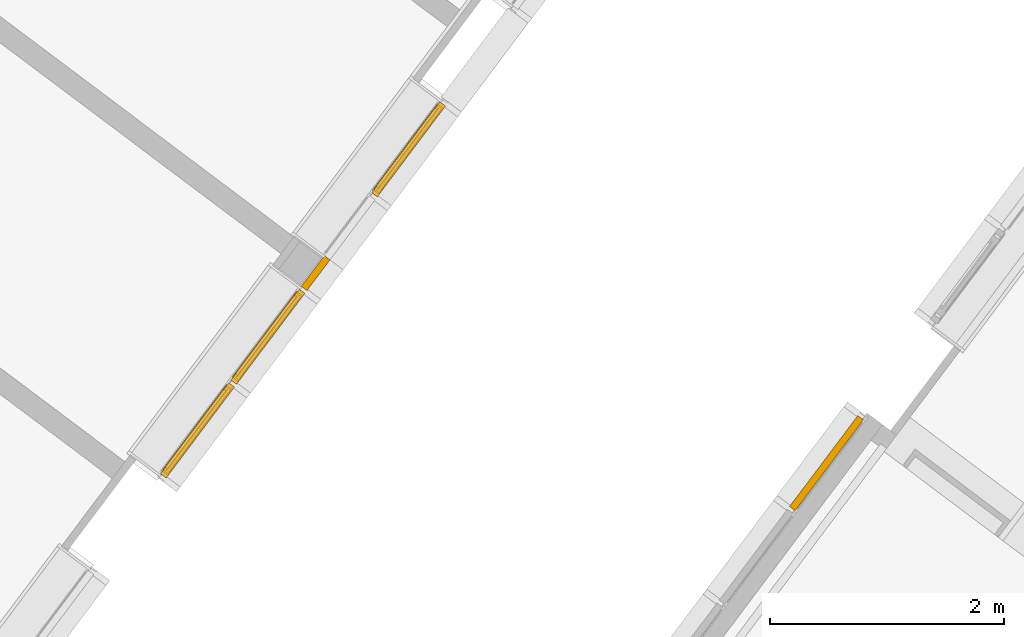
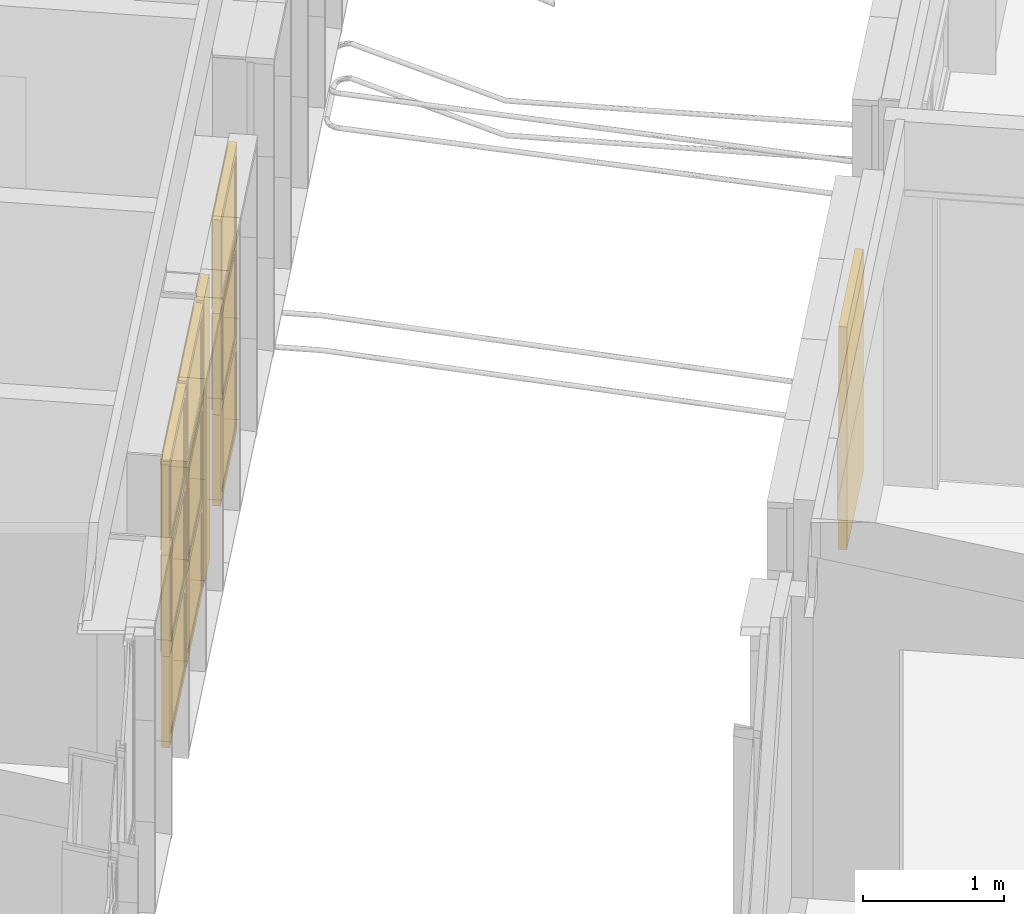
# One storey, part 160 of 243: 9 windows, 2 doors, 2 elements without a shape of their own.
"""IFC2X3 building model written with IfcOpenShell, lengths in metres."""

from ifc_helpers import new_model, entity, si_unit, converted_unit, derived_unit, direction, frame, origin, origin_2d_with_axis, place, context, subcontext, project, spatial, rectangle, extrude, faceted_brep, source, transform, mapped, material, material_list, type_object, type_shapes, element, aggregate, save


model = new_model("IFC2X3")

# Units and contexts
model_context = context("Model", 3, precision=1e-05, world=origin(), true_north=direction((6.123031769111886e-17, 1.0)))
body_context = subcontext(model_context, "Body", "Model", "MODEL_VIEW")
ifc_project = project(units=[si_unit("LENGTHUNIT", "METRE"), si_unit("AREAUNIT", "SQUARE_METRE"), si_unit("VOLUMEUNIT", "CUBIC_METRE"), converted_unit("PLANEANGLEUNIT", "DEGREE", entity("IfcRatioMeasure", 0.017453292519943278), si_unit("PLANEANGLEUNIT", "RADIAN"), dimensions=[0, 0, 0, 0, 0, 0, 0]), si_unit("MASSUNIT", "GRAM", prefix="KILO"), derived_unit("MASSDENSITYUNIT", [(si_unit("MASSUNIT", "GRAM", prefix="KILO"), 1), (si_unit("LENGTHUNIT", "METRE"), -3)]), derived_unit("IONCONCENTRATIONUNIT", [(si_unit("MASSUNIT", "GRAM", prefix="KILO"), 1), (si_unit("LENGTHUNIT", "METRE"), -3)]), derived_unit("MOMENTOFINERTIAUNIT", [(si_unit("LENGTHUNIT", "METRE"), 4)]), si_unit("TIMEUNIT", "SECOND"), si_unit("FREQUENCYUNIT", "HERTZ"), si_unit("THERMODYNAMICTEMPERATUREUNIT", "DEGREE_CELSIUS"), derived_unit("THERMALTRANSMITTANCEUNIT", [(si_unit("MASSUNIT", "GRAM", prefix="KILO"), 1), (si_unit("THERMODYNAMICTEMPERATUREUNIT", "KELVIN"), -1), (si_unit("TIMEUNIT", "SECOND"), -3)]), derived_unit("THERMALCONDUCTANCEUNIT", [(si_unit("MASSUNIT", "GRAM", prefix="KILO"), 1), (si_unit("THERMODYNAMICTEMPERATUREUNIT", "KELVIN"), -1), (si_unit("TIMEUNIT", "SECOND"), -3), (si_unit("LENGTHUNIT", "METRE"), 1)]), derived_unit("VOLUMETRICFLOWRATEUNIT", [(si_unit("LENGTHUNIT", "METRE"), 3), (si_unit("TIMEUNIT", "SECOND"), -1)]), derived_unit("MASSFLOWRATEUNIT", [(si_unit("MASSUNIT", "GRAM", prefix="KILO"), 1), (si_unit("TIMEUNIT", "SECOND"), -1)]), derived_unit("ROTATIONALFREQUENCYUNIT", [(si_unit("TIMEUNIT", "SECOND"), -1)]), si_unit("ELECTRICCURRENTUNIT", "AMPERE"), si_unit("ELECTRICVOLTAGEUNIT", "VOLT"), si_unit("POWERUNIT", "WATT"), si_unit("FORCEUNIT", "NEWTON", prefix="KILO"), si_unit("ILLUMINANCEUNIT", "LUX"), si_unit("LUMINOUSFLUXUNIT", "LUMEN"), si_unit("LUMINOUSINTENSITYUNIT", "CANDELA"), derived_unit("USERDEFINED", [(si_unit("MASSUNIT", "GRAM", prefix="KILO"), -1), (si_unit("LENGTHUNIT", "METRE"), -2), (si_unit("TIMEUNIT", "SECOND"), 3), (si_unit("LUMINOUSFLUXUNIT", "LUMEN"), 1)]), derived_unit("USERDEFINED", [(si_unit("MASSUNIT", "GRAM", prefix="KILO"), 1), (si_unit("TIMEUNIT", "SECOND"), -3), (si_unit("LENGTHUNIT", "METRE"), 3), (si_unit("ELECTRICCURRENTUNIT", "AMPERE"), -2)]), derived_unit("SOUNDPOWERUNIT", [(si_unit("MASSUNIT", "GRAM", prefix="KILO"), 1), (si_unit("TIMEUNIT", "SECOND"), -3), (si_unit("LENGTHUNIT", "METRE"), 2)]), derived_unit("SOUNDPRESSUREUNIT", [(si_unit("MASSUNIT", "GRAM", prefix="KILO"), 1), (si_unit("LENGTHUNIT", "METRE"), -1), (si_unit("TIMEUNIT", "SECOND"), -2)]), derived_unit("LINEARVELOCITYUNIT", [(si_unit("LENGTHUNIT", "METRE"), 1), (si_unit("TIMEUNIT", "SECOND"), -1)]), si_unit("PRESSUREUNIT", "PASCAL"), derived_unit("USERDEFINED", [(si_unit("MASSUNIT", "GRAM", prefix="KILO"), 1), (si_unit("LENGTHUNIT", "METRE"), -2), (si_unit("TIMEUNIT", "SECOND"), -2)]), derived_unit("LINEARFORCEUNIT", [(si_unit("MASSUNIT", "GRAM", prefix="KILO"), 1), (si_unit("TIMEUNIT", "SECOND"), -2)]), derived_unit("PLANARFORCEUNIT", [(si_unit("MASSUNIT", "GRAM", prefix="KILO"), 1), (si_unit("LENGTHUNIT", "METRE"), -1), (si_unit("TIMEUNIT", "SECOND"), -2)]), derived_unit("SPECIFICHEATCAPACITYUNIT", [(si_unit("THERMODYNAMICTEMPERATUREUNIT", "KELVIN"), -1), (si_unit("LENGTHUNIT", "METRE"), 2), (si_unit("TIMEUNIT", "SECOND"), -2)]), derived_unit("HEATINGVALUEUNIT", [(si_unit("LENGTHUNIT", "METRE"), 2), (si_unit("TIMEUNIT", "SECOND"), -2)]), derived_unit("VAPORPERMEABILITYUNIT", [(si_unit("LENGTHUNIT", "METRE"), -1), (si_unit("TIMEUNIT", "SECOND"), 1)]), derived_unit("DYNAMICVISCOSITYUNIT", [(si_unit("MASSUNIT", "GRAM", prefix="KILO"), 1), (si_unit("TIMEUNIT", "SECOND"), -1), (si_unit("LENGTHUNIT", "METRE"), -1)]), derived_unit("THERMALEXPANSIONCOEFFICIENTUNIT", [(si_unit("THERMODYNAMICTEMPERATUREUNIT", "KELVIN"), -1)]), derived_unit("MODULUSOFELASTICITYUNIT", [(si_unit("MASSUNIT", "GRAM", prefix="KILO"), 1), (si_unit("LENGTHUNIT", "METRE"), -1), (si_unit("TIMEUNIT", "SECOND"), -2)]), derived_unit("ISOTHERMALMOISTURECAPACITYUNIT", [(si_unit("LENGTHUNIT", "METRE"), 3), (si_unit("MASSUNIT", "GRAM", prefix="KILO"), -1)]), derived_unit("MOISTUREDIFFUSIVITYUNIT", [(si_unit("TIMEUNIT", "SECOND"), -1), (si_unit("LENGTHUNIT", "METRE"), 2)])], contexts=[model_context])

# Site, building, storey
site_placement = place(None, frame((0.0, 0.0, 235.0), z_axis=(0.0, 0.0, 1.0), x_axis=(-0.7996477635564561, 0.6004693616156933, 0.0)))
site = spatial("IfcSite", under=ifc_project, at=site_placement, Name="Default", CompositionType="ELEMENT")
building_placement = place(site_placement, origin())
building = spatial("IfcBuilding", under=site, at=building_placement, CompositionType="ELEMENT")
storey_placement = place(building_placement, origin())
storey = spatial("IfcBuildingStorey", under=building, at=storey_placement, Name="P0- Escola", CompositionType="ELEMENT", Elevation=0.0)

# Curtain wall, windows, door
curtain_wall_type = type_object("IfcCurtainWallType", Name="Muro cortina:MC- EXT- MC2", PredefinedType="NOTDEFINED")
curtain_wall_1_placement = place(storey_placement, origin())
curtain_wall_1 = element("IfcCurtainWall", 1, at=curtain_wall_1_placement, inside=storey, type_object=curtain_wall_type, Name="Muro cortina:MC- EXT- MC2", ObjectType="Muro cortina:MC- EXT- MC2")
ifc_material_1 = material(Name="_Vidre")
ifc_material_2 = material(Name="_Alumini- T1- Perfil")
ifc_material_list_1 = material_list([ifc_material_1, ifc_material_2])
window_style_1 = type_object("IfcWindowStyle", Name="MC- Alu- Conjunt vidre fix- 62x60 cm:MC- Alu- Conjunt vidre fix- 62x60 cm", ConstructionType="NOTDEFINED", OperationType="NOTDEFINED", ParameterTakesPrecedence=False, Sizeable=False, material=ifc_material_list_1)
shared_shape_1 = source(origin(), body_context, "Body", "Brep", [
    faceted_brep([(0.4361932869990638, -0.007600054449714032, 0.048806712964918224), (0.4361932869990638, -0.03160022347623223, 0.048806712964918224), (-0.4361932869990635, -0.03160022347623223, 0.048806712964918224), (-0.4361932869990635, -0.007600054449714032, 0.048806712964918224), (0.4361932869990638, -0.007600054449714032, 0.7387000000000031), (-0.4361932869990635, -0.007600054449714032, 0.7387000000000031), (-0.4361932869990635, -0.03160022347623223, 0.7387000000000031), (0.4361932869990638, -0.03160022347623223, 0.7387000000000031)], [[[0, 1, 2, 3]], [[4, 0, 3, 5]], [[5, 3, 2, 6]], [[6, 2, 1, 7]], [[7, 1, 0, 4]], [[4, 5, 6, 7]]]),
    faceted_brep([(0.48499999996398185, -0.05999999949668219, 0.7877000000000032), (0.48499999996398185, -0.05999999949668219, 0.0), (0.48499999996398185, 0.0, 0.0), (0.48499999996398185, 0.0, 0.787700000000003), (-0.48499999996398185, 0.0, 0.7877000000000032), (-0.48499999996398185, 0.0, 0.0), (0.4221931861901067, 0.0, 0.7248931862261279), (-0.42219318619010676, 0.0, 0.724893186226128), (-0.4221931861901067, 0.0, 0.0628068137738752), (0.4221931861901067, 0.0, 0.06280681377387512), (-0.48499999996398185, -0.05999999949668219, 0.0), (-0.48499999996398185, -0.05999999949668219, 0.7877000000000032), (-0.42219603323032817, -0.05999999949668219, 0.7248960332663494), (0.42219603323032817, -0.05999999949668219, 0.7248960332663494), (0.42219603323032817, -0.05999999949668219, 0.0628039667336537), (-0.42219603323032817, -0.05999999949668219, 0.0628039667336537), (0.4221960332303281, -0.03160022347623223, 0.7248960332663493), (0.42219603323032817, -0.03160022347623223, 0.0628039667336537), (-0.42219603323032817, -0.03160022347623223, 0.06280396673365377), (-0.42219603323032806, -0.03160022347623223, 0.7248960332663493), (-0.43619328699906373, -0.03160022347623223, 0.738893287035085), (0.43619328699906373, -0.03160022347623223, 0.738893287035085), (0.43619328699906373, -0.03160022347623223, 0.048806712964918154), (-0.43619328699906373, -0.03160022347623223, 0.04880671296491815), (0.43619328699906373, -0.007600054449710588, 0.738893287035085), (0.43619328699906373, -0.007600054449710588, 0.04880671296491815), (-0.43619328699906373, -0.007600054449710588, 0.048806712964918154), (-0.43619328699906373, -0.007600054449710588, 0.738893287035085), (-0.42219318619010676, -0.007600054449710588, 0.724893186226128), (0.42219318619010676, -0.007600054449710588, 0.724893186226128), (0.42219318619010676, -0.007600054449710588, 0.06280681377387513), (-0.42219318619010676, -0.007600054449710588, 0.06280681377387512)], [[[0, 1, 2, 3]], [[4, 3, 2, 5], [6, 7, 8, 9]], [[1, 10, 5, 2]], [[0, 11, 10, 1], [12, 13, 14, 15]], [[16, 17, 14, 13]], [[17, 18, 15, 14]], [[16, 19, 18, 17], [20, 21, 22, 23]], [[24, 25, 22, 21]], [[25, 26, 23, 22]], [[24, 27, 26, 25], [28, 29, 30, 31]], [[6, 9, 30, 29]], [[9, 8, 31, 30]], [[10, 11, 4, 5]], [[18, 19, 12, 15]], [[26, 27, 20, 23]], [[8, 7, 28, 31]], [[11, 0, 3, 4]], [[19, 16, 13, 12]], [[27, 24, 21, 20]], [[7, 6, 29, 28]]], outer=[[True], [True, False], [True], [True, False], [True], [True], [False, True], [True], [True], [True, False], [True], [True], [True], [True], [True], [True], [True], [True], [True], [True]]),
])
type_shapes(window_style_1, [shared_shape_1])
window_1_placement = place(curtain_wall_1_placement, frame((28.345147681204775, -25.915191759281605, 0.03229999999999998), z_axis=(0.0, 0.0, 1.0), x_axis=(0.0, 1.0, 0.0)))
window_1 = element("IfcWindow", 2, at=window_1_placement, type_object=window_style_1, material=ifc_material_list_1, Name="MC- Alu- Conjunt vidre fix- 62x60 cm:MC- Alu- Conjunt vidre fix- 62x60 cm", ObjectType="MC- Alu- Conjunt vidre fix- 62x60 cm:MC- Alu- Conjunt vidre fix- 62x60 cm", OverallHeight=0.7877000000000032, OverallWidth=0.9699999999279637, context=body_context, shape_type="MappedRepresentation", body=[
    mapped(shared_shape_1, transform((0.0, 0.0, 0.0), scale=1.0)),
])
window_2_placement = place(curtain_wall_1_placement, frame((28.345147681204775, -26.91519175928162, 0.03229999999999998), z_axis=(0.0, 0.0, 1.0), x_axis=(0.0, 1.0, 0.0)))
window_2 = element("IfcWindow", 3, at=window_2_placement, type_object=window_style_1, material=ifc_material_list_1, Name="MC- Alu- Conjunt vidre fix- 62x60 cm:MC- Alu- Conjunt vidre fix- 62x60 cm", ObjectType="MC- Alu- Conjunt vidre fix- 62x60 cm:MC- Alu- Conjunt vidre fix- 62x60 cm", OverallHeight=0.7877000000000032, OverallWidth=0.9699999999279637, context=body_context, shape_type="MappedRepresentation", body=[
    mapped(shared_shape_1, transform((0.0, 0.0, 0.0), scale=1.0)),
])
window_3_placement = place(curtain_wall_1_placement, frame((28.34514768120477, -28.915191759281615, 0.03229999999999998), z_axis=(0.0, 0.0, 1.0), x_axis=(0.0, 1.0, 0.0)))
window_3 = element("IfcWindow", 4, at=window_3_placement, type_object=window_style_1, material=ifc_material_list_1, Name="MC- Alu- Conjunt vidre fix- 62x60 cm:MC- Alu- Conjunt vidre fix- 62x60 cm", ObjectType="MC- Alu- Conjunt vidre fix- 62x60 cm:MC- Alu- Conjunt vidre fix- 62x60 cm", OverallHeight=0.7877000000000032, OverallWidth=0.9699999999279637, context=body_context, shape_type="MappedRepresentation", body=[
    mapped(shared_shape_1, transform((0.0, 0.0, 0.0), scale=1.0)),
])
window_style_2 = type_object("IfcWindowStyle", Name="MC- Alu- Conjunt finestra basculant- 68x68 cm:MC- Alu- Conjunt finestra basculant- 68x68 cm", ConstructionType="NOTDEFINED", OperationType="NOTDEFINED", ParameterTakesPrecedence=False, Sizeable=False, material=ifc_material_list_1)
shared_shape_2 = source(origin(), body_context, "Body", "Brep", [
    faceted_brep([(0.43291170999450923, -0.03559830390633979, 0.051999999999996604), (-0.43291170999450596, -0.03559830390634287, 0.051999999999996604), (-0.43291170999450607, -0.011598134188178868, 0.051999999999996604), (0.43291170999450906, -0.011598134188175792, 0.051999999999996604), (0.43291170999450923, -0.035598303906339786, 0.8228027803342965), (0.43291170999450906, -0.011598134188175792, 0.8228027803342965), (-0.43291170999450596, -0.011598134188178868, 0.8228027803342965), (-0.43291170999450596, -0.03559830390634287, 0.8228027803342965)], [[[0, 1, 2, 3]], [[4, 0, 3, 5]], [[5, 3, 2, 6]], [[6, 2, 1, 7]], [[7, 1, 0, 4]], [[4, 5, 6, 7]]]),
    faceted_brep([(-0.4172108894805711, -0.009998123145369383, 0.8071019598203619), (-0.4172108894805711, -0.00999812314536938, 0.06789804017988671), (-0.4172108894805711, -0.007998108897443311, 0.06789804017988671), (-0.4172108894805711, -0.007998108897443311, 0.8071019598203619), (-0.44610892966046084, -0.007998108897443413, 0.8360000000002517), (0.44610892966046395, -0.007998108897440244, 0.8360000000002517), (0.44610892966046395, -0.007998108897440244, 0.03899999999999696), (-0.44610892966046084, -0.007998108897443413, 0.03899999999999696), (0.4172108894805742, -0.007998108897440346, 0.8071019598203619), (0.4172108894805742, -0.007998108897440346, 0.06789804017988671), (0.4172108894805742, -0.009998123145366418, 0.06789804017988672), (0.4172108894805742, -0.009998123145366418, 0.8071019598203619), (0.4329117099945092, -0.00999812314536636, 0.8228027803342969), (-0.43291170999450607, -0.009998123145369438, 0.8228027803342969), (-0.43291170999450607, -0.009998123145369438, 0.05219721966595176), (0.4329117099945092, -0.00999812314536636, 0.052197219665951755), (-0.4329117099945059, -0.04079986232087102, 0.8228027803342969), (-0.4329117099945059, -0.04079986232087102, 0.052197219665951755), (0.4329117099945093, -0.04079986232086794, 0.05219721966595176), (0.4329117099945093, -0.04079986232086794, 0.8228027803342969), (0.41721088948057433, -0.040799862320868, 0.8071019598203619), (-0.41721088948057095, -0.04079986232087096, 0.8071019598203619), (-0.41721088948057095, -0.04079986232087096, 0.06789804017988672), (0.41721088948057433, -0.040799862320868, 0.06789804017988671), (-0.4172108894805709, -0.06800005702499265, 0.8071019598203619), (-0.4172108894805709, -0.06800005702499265, 0.06789804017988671), (0.4172108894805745, -0.0680000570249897, 0.06789804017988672), (0.4172108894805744, -0.0680000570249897, 0.8071019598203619), (0.4636128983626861, -0.06800005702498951, 0.8535039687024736), (-0.4636128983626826, -0.06800005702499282, 0.8535039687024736), (-0.4636128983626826, -0.06800005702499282, 0.021496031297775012), (0.4636128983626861, -0.06800005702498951, 0.021496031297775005), (-0.4636128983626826, -0.0645000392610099, 0.8535039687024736), (-0.4636128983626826, -0.06450003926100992, 0.021496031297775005), (0.4636128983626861, -0.06450003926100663, 0.021496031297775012), (0.4636128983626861, -0.06450003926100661, 0.8535039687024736), (0.44610892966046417, -0.06450003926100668, 0.8360000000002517), (-0.4461089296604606, -0.06450003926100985, 0.8360000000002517), (-0.4461089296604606, -0.06450003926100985, 0.03899999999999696), (0.44610892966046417, -0.06450003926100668, 0.038999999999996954)], [[[0, 1, 2, 3]], [[4, 5, 6, 7], [8, 3, 2, 9]], [[1, 10, 9, 2]], [[0, 11, 10, 1], [12, 13, 14, 15]], [[16, 17, 14, 13]], [[17, 18, 15, 14]], [[16, 19, 18, 17], [20, 21, 22, 23]], [[24, 25, 22, 21]], [[25, 26, 23, 22]], [[24, 27, 26, 25], [28, 29, 30, 31]], [[32, 33, 30, 29]], [[33, 34, 31, 30]], [[32, 35, 34, 33], [36, 37, 38, 39]], [[4, 7, 38, 37]], [[7, 6, 39, 38]], [[10, 11, 8, 9]], [[18, 19, 12, 15]], [[26, 27, 20, 23]], [[34, 35, 28, 31]], [[6, 5, 36, 39]], [[11, 0, 3, 8]], [[19, 16, 13, 12]], [[27, 24, 21, 20]], [[35, 32, 29, 28]], [[5, 4, 37, 36]]], outer=[[True], [True, False], [True], [False, True], [True], [True], [True, False], [True], [True], [False, True], [True], [True], [True, False], [True], [True], [True], [True], [True], [True], [True], [True], [True], [True], [True], [True]]),
    faceted_brep([(0.42219318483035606, 0.0, 0.8121931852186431), (0.42219318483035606, 0.0, 0.06280681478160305), (0.42219318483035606, -0.0040000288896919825, 0.06280681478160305), (0.42219318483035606, -0.0040000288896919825, 0.8121931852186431), (-0.42219318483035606, -0.0040000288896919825, 0.8121931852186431), (-0.42219318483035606, -0.0040000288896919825, 0.06280681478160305), (0.4575998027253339, -0.0040000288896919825, 0.8475998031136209), (-0.4575998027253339, -0.0040000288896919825, 0.8475998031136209), (-0.4575998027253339, -0.0040000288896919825, 0.027400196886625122), (0.4575998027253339, -0.0040000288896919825, 0.02740019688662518), (-0.42219318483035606, 0.0, 0.06280681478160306), (-0.42219318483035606, 0.0, 0.8121931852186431), (-0.48499999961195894, 0.0, 0.875000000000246), (0.48499999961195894, 0.0, 0.875000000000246), (0.48499999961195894, 0.0, 0.0), (-0.48499999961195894, 0.0, 0.0), (0.48499999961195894, -0.05999999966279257, 0.875000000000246), (0.48499999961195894, -0.05999999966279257, 0.0), (-0.48499999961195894, -0.05999999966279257, 0.0), (-0.48499999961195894, -0.05999999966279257, 0.875000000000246), (-0.4575998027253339, -0.05999999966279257, 0.8475998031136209), (0.4575998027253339, -0.05999999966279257, 0.8475998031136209), (0.4575998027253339, -0.05999999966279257, 0.027400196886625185), (-0.4575998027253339, -0.05999999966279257, 0.02740019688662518)], [[[0, 1, 2, 3]], [[4, 3, 2, 5], [6, 7, 8, 9]], [[1, 10, 5, 2]], [[0, 11, 10, 1], [12, 13, 14, 15]], [[16, 17, 14, 13]], [[17, 18, 15, 14]], [[16, 19, 18, 17], [20, 21, 22, 23]], [[6, 9, 22, 21]], [[9, 8, 23, 22]], [[10, 11, 4, 5]], [[18, 19, 12, 15]], [[8, 7, 20, 23]], [[11, 0, 3, 4]], [[19, 16, 13, 12]], [[7, 6, 21, 20]]], outer=[[True], [False, True], [True], [False, True], [True], [True], [True, False], [True], [True], [True], [True], [True], [True], [True], [True]]),
])
type_shapes(window_style_2, [shared_shape_2])
window_4_placement = place(curtain_wall_1_placement, frame((28.345147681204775, -25.915191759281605, 0.8200000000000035), z_axis=(0.0, 0.0, 1.0), x_axis=(0.0, 1.0, 0.0)))
window_4 = element("IfcWindow", 5, at=window_4_placement, type_object=window_style_2, material=ifc_material_list_1, Name="MC- Alu- Conjunt finestra basculant- 68x68 cm:MC- Alu- Conjunt finestra basculant- 68x68 cm", ObjectType="MC- Alu- Conjunt finestra basculant- 68x68 cm:MC- Alu- Conjunt finestra basculant- 68x68 cm", OverallHeight=0.8750000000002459, OverallWidth=0.9699999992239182, context=body_context, shape_type="MappedRepresentation", body=[
    mapped(shared_shape_2, transform((0.0, 0.0, 0.0), scale=1.0)),
])
window_5_placement = place(curtain_wall_1_placement, frame((28.345147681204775, -26.91519175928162, 0.8200000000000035), z_axis=(0.0, 0.0, 1.0), x_axis=(0.0, 1.0, 0.0)))
window_5 = element("IfcWindow", 6, at=window_5_placement, type_object=window_style_2, material=ifc_material_list_1, Name="MC- Alu- Conjunt finestra basculant- 68x68 cm:MC- Alu- Conjunt finestra basculant- 68x68 cm", ObjectType="MC- Alu- Conjunt finestra basculant- 68x68 cm:MC- Alu- Conjunt finestra basculant- 68x68 cm", OverallHeight=0.8750000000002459, OverallWidth=0.9699999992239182, context=body_context, shape_type="MappedRepresentation", body=[
    mapped(shared_shape_2, transform((0.0, 0.0, 0.0), scale=1.0)),
])
window_6_placement = place(curtain_wall_1_placement, frame((28.34514768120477, -28.915191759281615, 0.8200000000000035), z_axis=(0.0, 0.0, 1.0), x_axis=(0.0, 1.0, 0.0)))
window_6 = element("IfcWindow", 7, at=window_6_placement, type_object=window_style_2, material=ifc_material_list_1, Name="MC- Alu- Conjunt finestra basculant- 68x68 cm:MC- Alu- Conjunt finestra basculant- 68x68 cm", ObjectType="MC- Alu- Conjunt finestra basculant- 68x68 cm:MC- Alu- Conjunt finestra basculant- 68x68 cm", OverallHeight=0.8750000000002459, OverallWidth=0.9699999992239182, context=body_context, shape_type="MappedRepresentation", body=[
    mapped(shared_shape_2, transform((0.0, 0.0, 0.0), scale=1.0)),
])
window_style_3 = type_object("IfcWindowStyle", Name="MC- Alu- Conjunt finestra basculant- 68x68 cm:MC- Alu- Conjunt finestra basculant- 68x68 cm", ConstructionType="NOTDEFINED", OperationType="NOTDEFINED", ParameterTakesPrecedence=False, Sizeable=False, material=ifc_material_list_1)
shared_shape_3 = source(origin(), body_context, "Body", "Brep", [
    faceted_brep([(0.432911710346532, -0.03559830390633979, 0.051999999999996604), (-0.43291171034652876, -0.03559830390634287, 0.051999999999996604), (-0.4329117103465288, -0.011598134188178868, 0.051999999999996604), (0.43291171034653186, -0.011598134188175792, 0.051999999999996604), (0.432911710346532, -0.035598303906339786, 0.7565527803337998), (0.43291171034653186, -0.011598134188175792, 0.7565527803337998), (-0.43291171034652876, -0.011598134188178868, 0.7565527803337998), (-0.43291171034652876, -0.03559830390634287, 0.7565527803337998)], [[[0, 1, 2, 3]], [[4, 0, 3, 5]], [[5, 3, 2, 6]], [[6, 2, 1, 7]], [[7, 1, 0, 4]], [[4, 5, 6, 7]]]),
    faceted_brep([(-0.41721088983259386, -0.009998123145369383, 0.7408519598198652), (-0.41721088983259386, -0.00999812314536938, 0.06789804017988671), (-0.41721088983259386, -0.007998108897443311, 0.06789804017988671), (-0.41721088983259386, -0.007998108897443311, 0.7408519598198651), (-0.4461089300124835, -0.007998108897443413, 0.7697499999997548), (0.44610893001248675, -0.007998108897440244, 0.7697499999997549), (0.4461089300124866, -0.007998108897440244, 0.03899999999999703), (-0.44610893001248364, -0.007998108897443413, 0.03899999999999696), (0.41721088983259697, -0.007998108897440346, 0.7408519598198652), (0.41721088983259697, -0.007998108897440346, 0.06789804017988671), (0.41721088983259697, -0.009998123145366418, 0.06789804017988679), (0.41721088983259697, -0.009998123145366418, 0.7408519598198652), (0.4329117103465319, -0.00999812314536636, 0.7565527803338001), (-0.4329117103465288, -0.009998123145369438, 0.7565527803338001), (-0.4329117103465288, -0.009998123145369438, 0.05219721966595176), (0.4329117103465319, -0.00999812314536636, 0.052197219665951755), (-0.4329117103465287, -0.04079986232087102, 0.7565527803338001), (-0.4329117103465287, -0.04079986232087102, 0.052197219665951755), (0.4329117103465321, -0.04079986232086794, 0.05219721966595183), (0.4329117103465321, -0.04079986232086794, 0.7565527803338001), (0.41721088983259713, -0.040799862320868, 0.7408519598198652), (-0.41721088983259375, -0.04079986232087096, 0.7408519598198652), (-0.41721088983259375, -0.04079986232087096, 0.06789804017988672), (0.41721088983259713, -0.040799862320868, 0.06789804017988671), (-0.4172108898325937, -0.06800005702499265, 0.7408519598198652), (-0.4172108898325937, -0.06800005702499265, 0.06789804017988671), (0.41721088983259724, -0.0680000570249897, 0.06789804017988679), (0.4172108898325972, -0.0680000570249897, 0.7408519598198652), (0.4636128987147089, -0.06800005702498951, 0.7872539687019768), (-0.46361289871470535, -0.06800005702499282, 0.7872539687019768), (-0.46361289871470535, -0.06800005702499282, 0.021496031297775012), (0.4636128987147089, -0.06800005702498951, 0.021496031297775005), (-0.46361289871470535, -0.0645000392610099, 0.7872539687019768), (-0.46361289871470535, -0.06450003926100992, 0.021496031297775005), (0.4636128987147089, -0.06450003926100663, 0.02149603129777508), (0.4636128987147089, -0.06450003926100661, 0.7872539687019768), (0.4461089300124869, -0.06450003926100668, 0.7697499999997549), (-0.4461089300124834, -0.06450003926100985, 0.7697499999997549), (-0.4461089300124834, -0.06450003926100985, 0.03899999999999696), (0.4461089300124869, -0.06450003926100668, 0.038999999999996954)], [[[0, 1, 2, 3]], [[4, 5, 6, 7], [8, 3, 2, 9]], [[1, 10, 9, 2]], [[0, 11, 10, 1], [12, 13, 14, 15]], [[16, 17, 14, 13]], [[17, 18, 15, 14]], [[16, 19, 18, 17], [20, 21, 22, 23]], [[24, 25, 22, 21]], [[25, 26, 23, 22]], [[24, 27, 26, 25], [28, 29, 30, 31]], [[32, 33, 30, 29]], [[33, 34, 31, 30]], [[32, 35, 34, 33], [36, 37, 38, 39]], [[4, 7, 38, 37]], [[7, 6, 39, 38]], [[10, 11, 8, 9]], [[18, 19, 12, 15]], [[26, 27, 20, 23]], [[34, 35, 28, 31]], [[6, 5, 36, 39]], [[11, 0, 3, 8]], [[19, 16, 13, 12]], [[27, 24, 21, 20]], [[35, 32, 29, 28]], [[5, 4, 37, 36]]], outer=[[True], [True, False], [True], [False, True], [True], [True], [True, False], [True], [True], [False, True], [True], [True], [True, False], [True], [True], [True], [True], [True], [True], [True], [True], [True], [True], [True], [True]]),
    faceted_brep([(0.4221931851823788, 0.0, 0.7459431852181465), (0.4221931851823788, 0.0, 0.06280681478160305), (0.4221931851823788, -0.0040000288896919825, 0.06280681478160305), (0.4221931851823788, -0.0040000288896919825, 0.7459431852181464), (-0.4221931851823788, -0.0040000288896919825, 0.7459431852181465), (-0.4221931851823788, -0.0040000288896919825, 0.06280681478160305), (0.4575998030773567, -0.0040000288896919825, 0.7813498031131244), (-0.4575998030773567, -0.0040000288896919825, 0.7813498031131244), (-0.4575998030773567, -0.0040000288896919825, 0.027400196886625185), (0.4575998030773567, -0.0040000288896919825, 0.02740019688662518), (-0.4221931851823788, 0.0, 0.06280681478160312), (-0.4221931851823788, 0.0, 0.7459431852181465), (-0.48499999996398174, 0.0, 0.8087499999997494), (0.48499999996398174, 0.0, 0.8087499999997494), (0.48499999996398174, 0.0, 0.0), (-0.48499999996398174, 0.0, 0.0), (0.48499999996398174, -0.05999999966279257, 0.8087499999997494), (0.48499999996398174, -0.05999999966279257, 0.0), (-0.48499999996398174, -0.05999999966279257, 0.0), (-0.48499999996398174, -0.05999999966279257, 0.8087499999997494), (-0.4575998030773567, -0.05999999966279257, 0.7813498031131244), (0.4575998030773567, -0.05999999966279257, 0.7813498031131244), (0.4575998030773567, -0.05999999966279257, 0.027400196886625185), (-0.4575998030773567, -0.05999999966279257, 0.02740019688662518)], [[[0, 1, 2, 3]], [[4, 3, 2, 5], [6, 7, 8, 9]], [[1, 10, 5, 2]], [[0, 11, 10, 1], [12, 13, 14, 15]], [[16, 17, 14, 13]], [[17, 18, 15, 14]], [[16, 19, 18, 17], [20, 21, 22, 23]], [[6, 9, 22, 21]], [[9, 8, 23, 22]], [[10, 11, 4, 5]], [[18, 19, 12, 15]], [[8, 7, 20, 23]], [[11, 0, 3, 4]], [[19, 16, 13, 12]], [[7, 6, 21, 20]]], outer=[[True], [False, True], [True], [False, True], [True], [True], [True, False], [True], [True], [True], [True], [True], [True], [True], [True]]),
])
type_shapes(window_style_3, [shared_shape_3])
window_7_placement = place(curtain_wall_1_placement, frame((28.345147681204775, -25.915191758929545, 1.6950000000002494), z_axis=(0.0, 0.0, 1.0), x_axis=(0.0, 1.0, 0.0)))
window_7 = element("IfcWindow", 8, at=window_7_placement, type_object=window_style_3, material=ifc_material_list_1, Name="MC- Alu- Conjunt finestra basculant- 68x68 cm:MC- Alu- Conjunt finestra basculant- 68x68 cm", ObjectType="MC- Alu- Conjunt finestra basculant- 68x68 cm:MC- Alu- Conjunt finestra basculant- 68x68 cm", OverallHeight=0.8087499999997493, OverallWidth=0.9699999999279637, context=body_context, shape_type="MappedRepresentation", body=[
    mapped(shared_shape_3, transform((0.0, 0.0, 0.0), scale=1.0)),
])
window_8_placement = place(curtain_wall_1_placement, frame((28.345147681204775, -26.915191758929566, 1.6950000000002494), z_axis=(0.0, 0.0, 1.0), x_axis=(0.0, 1.0, 0.0)))
window_8 = element("IfcWindow", 9, at=window_8_placement, type_object=window_style_3, material=ifc_material_list_1, Name="MC- Alu- Conjunt finestra basculant- 68x68 cm:MC- Alu- Conjunt finestra basculant- 68x68 cm", ObjectType="MC- Alu- Conjunt finestra basculant- 68x68 cm:MC- Alu- Conjunt finestra basculant- 68x68 cm", OverallHeight=0.8087499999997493, OverallWidth=0.9699999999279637, context=body_context, shape_type="MappedRepresentation", body=[
    mapped(shared_shape_3, transform((0.0, 0.0, 0.0), scale=1.0)),
])
window_9_placement = place(curtain_wall_1_placement, frame((28.34514768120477, -28.915191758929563, 1.6950000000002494), z_axis=(0.0, 0.0, 1.0), x_axis=(0.0, 1.0, 0.0)))
window_9 = element("IfcWindow", 10, at=window_9_placement, type_object=window_style_3, material=ifc_material_list_1, Name="MC- Alu- Conjunt finestra basculant- 68x68 cm:MC- Alu- Conjunt finestra basculant- 68x68 cm", ObjectType="MC- Alu- Conjunt finestra basculant- 68x68 cm:MC- Alu- Conjunt finestra basculant- 68x68 cm", OverallHeight=0.8087499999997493, OverallWidth=0.9699999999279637, context=body_context, shape_type="MappedRepresentation", body=[
    mapped(shared_shape_3, transform((0.0, 0.0, 0.0), scale=1.0)),
])
ifc_material_3 = material(Name="_Aillament")
ifc_material_list_2 = material_list([ifc_material_2, ifc_material_3])
door_style_1 = type_object("IfcDoorStyle", Name="MC- Alu- panell especific xapa:MC- Alu- panell especific xapa", ConstructionType="NOTDEFINED", OperationType="NOTDEFINED", ParameterTakesPrecedence=False, Sizeable=False, material=ifc_material_list_2)
shared_shape_4 = source(origin(), body_context, "Body", "SweptSolid", [
    extrude(rectangle(XDim=0.005999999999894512, YDim=0.32833333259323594, at=origin_2d_with_axis()), frame((0.0, -0.057000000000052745, 0.0), z_axis=(0.0, 0.0, 1.0), x_axis=(0.0, -1.0, 0.0)), (0.0, 0.0, 1.0), 2.471449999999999),
    extrude(rectangle(XDim=0.3283333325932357, YDim=0.048000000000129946, at=origin_2d_with_axis()), frame((0.0, -0.030000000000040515, 0.0)), (0.0, 0.0, 1.0), 2.471449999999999),
    extrude(rectangle(XDim=0.005999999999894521, YDim=0.3283333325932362, at=origin_2d_with_axis()), frame((0.0, -0.003000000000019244, 0.0), z_axis=(0.0, 0.0, 1.0), x_axis=(0.0, -1.0, 0.0)), (0.0, 0.0, 1.0), 2.471449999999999),
])
type_shapes(door_style_1, [shared_shape_4])
door_1_placement = place(curtain_wall_1_placement, frame((28.34514768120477, -27.594358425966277, 0.03229999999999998), z_axis=(0.0, 0.0, 1.0), x_axis=(0.0, 1.0, 0.0)))
door_1 = element("IfcDoor", 11, at=door_1_placement, type_object=door_style_1, material=ifc_material_list_2, Name="MC- Alu- panell especific xapa:MC- Alu- panell especific xapa", ObjectType="MC- Alu- panell especific xapa:MC- Alu- panell especific xapa", OverallHeight=2.471449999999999, OverallWidth=0.32833333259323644, context=body_context, shape_type="MappedRepresentation", body=[
    mapped(shared_shape_4, transform((0.0, 0.0, 0.0), scale=1.0)),
])
aggregate(curtain_wall_1, [window_1, window_2, door_1, window_3, window_4, window_5, window_6, window_7, window_8, window_9])

# Curtain wall, door
curtain_wall_2_placement = place(storey_placement, origin())
curtain_wall_2 = element("IfcCurtainWall", 12, at=curtain_wall_2_placement, inside=storey, type_object=curtain_wall_type, Name="Muro cortina:MC- EXT- MC2", ObjectType="Muro cortina:MC- EXT- MC2")
door_style_2 = type_object("IfcDoorStyle", Name="MC- Alu- panell especific xapa:MC- Alu- panell especific xapa", ConstructionType="NOTDEFINED", OperationType="NOTDEFINED", ParameterTakesPrecedence=False, Sizeable=False, material=ifc_material_list_2)
shared_shape_5 = source(origin(), body_context, "Body", "SweptSolid", [
    extrude(rectangle(XDim=0.9699999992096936, YDim=0.005999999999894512, at=origin_2d_with_axis()), frame((0.0, -0.057000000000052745, 0.0), z_axis=(0.0, 0.0, 1.0), x_axis=(-1.0, 0.0, 0.0)), (0.0, 0.0, 1.0), 1.9226999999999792),
    extrude(rectangle(XDim=0.048000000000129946, YDim=0.9699999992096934, at=origin_2d_with_axis()), frame((0.0, -0.030000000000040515, 0.0), z_axis=(0.0, 0.0, 1.0), x_axis=(0.0, 1.0, 0.0)), (0.0, 0.0, 1.0), 1.9226999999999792),
    extrude(rectangle(XDim=0.9699999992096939, YDim=0.005999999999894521, at=origin_2d_with_axis()), frame((0.0, -0.003000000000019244, 0.0), z_axis=(0.0, 0.0, 1.0), x_axis=(-1.0, 0.0, 0.0)), (0.0, 0.0, 1.0), 1.9226999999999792),
])
type_shapes(door_style_2, [shared_shape_5])
door_2_placement = place(curtain_wall_2_placement, frame((23.945147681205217, -28.915191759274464, 0.03229999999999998), z_axis=(0.0, 0.0, 1.0), x_axis=(0.0, -1.0, 0.0)))
door_2 = element("IfcDoor", 13, at=door_2_placement, type_object=door_style_2, material=ifc_material_list_2, Name="MC- Alu- panell especific xapa:MC- Alu- panell especific xapa", ObjectType="MC- Alu- panell especific xapa:MC- Alu- panell especific xapa", OverallHeight=1.9226999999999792, OverallWidth=0.9699999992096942, context=body_context, shape_type="MappedRepresentation", body=[
    mapped(shared_shape_5, transform((0.0, 0.0, 0.0), scale=1.0)),
])
aggregate(curtain_wall_2, [door_2])

save(model, "model.ifc")
